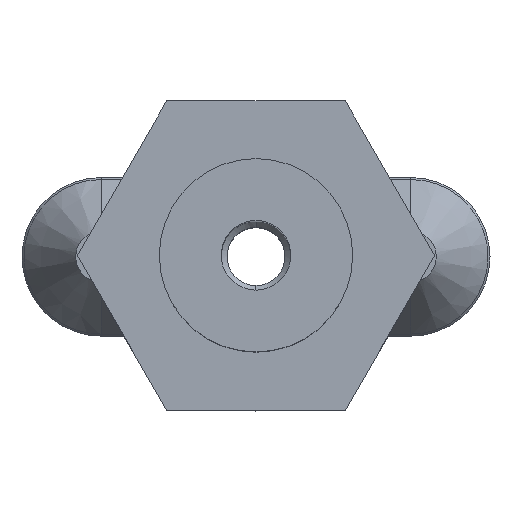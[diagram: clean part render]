
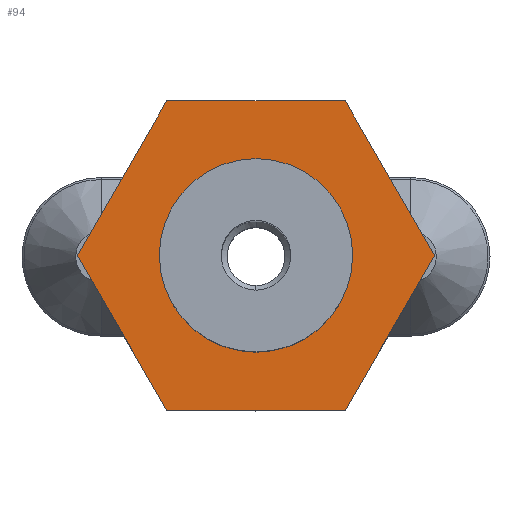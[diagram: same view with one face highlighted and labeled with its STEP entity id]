
A CAD part, top view. The second image highlights one B-rep face of the part: STEP entity #94.
In plain terms, the highlighted planar face has unit normal (0, 0, 1).
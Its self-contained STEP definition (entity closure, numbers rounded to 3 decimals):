
#94=ADVANCED_FACE('NONE',(#216,#217),#218,.T.);
#216=FACE_OUTER_BOUND('',#364,.T.);
#217=FACE_BOUND('',#365,.T.);
#218=PLANE('',#366);
#364=EDGE_LOOP('',(#558,#559,#560,#561,#562,#563));
#365=EDGE_LOOP('',(#564,#565));
#366=AXIS2_PLACEMENT_3D('',#566,#567,#568);
#558=ORIENTED_EDGE('',*,*,#905,.T.);
#559=ORIENTED_EDGE('',*,*,#906,.T.);
#560=ORIENTED_EDGE('',*,*,#907,.T.);
#561=ORIENTED_EDGE('',*,*,#908,.T.);
#562=ORIENTED_EDGE('',*,*,#909,.T.);
#563=ORIENTED_EDGE('',*,*,#910,.T.);
#564=ORIENTED_EDGE('',*,*,#894,.F.);
#565=ORIENTED_EDGE('',*,*,#903,.F.);
#566=CARTESIAN_POINT('',(0.,0.,0.0));
#567=DIRECTION('',(0.0,0.0,1.0));
#568=DIRECTION('',(1.0,-0.0,0.0));
#894=EDGE_CURVE('NONE',#1064,#1065,#1066,.T.);
#903=EDGE_CURVE('NONE',#1065,#1064,#1077,.T.);
#905=EDGE_CURVE('NONE',#1079,#1080,#1081,.T.);
#906=EDGE_CURVE('NONE',#1080,#1082,#1083,.T.);
#907=EDGE_CURVE('NONE',#1082,#1084,#1085,.T.);
#908=EDGE_CURVE('NONE',#1084,#1086,#1087,.T.);
#909=EDGE_CURVE('NONE',#1086,#1088,#1089,.T.);
#910=EDGE_CURVE('NONE',#1088,#1079,#1090,.T.);
#1064=VERTEX_POINT('NONE',#1296);
#1065=VERTEX_POINT('NONE',#1297);
#1066=CIRCLE('',#1298,2.5);
#1077=CIRCLE('',#1311,2.5);
#1079=VERTEX_POINT('NONE',#1313);
#1080=VERTEX_POINT('NONE',#1314);
#1081=LINE('',#1315,#1316);
#1082=VERTEX_POINT('NONE',#1317);
#1083=LINE('',#1318,#1319);
#1084=VERTEX_POINT('NONE',#1320);
#1085=LINE('',#1321,#1322);
#1086=VERTEX_POINT('NONE',#1323);
#1087=LINE('',#1324,#1325);
#1088=VERTEX_POINT('NONE',#1326);
#1089=LINE('',#1327,#1328);
#1090=LINE('',#1329,#1330);
#1296=CARTESIAN_POINT('',(2.5,0.0,0.0));
#1297=CARTESIAN_POINT('',(-2.5,0.,0.0));
#1298=AXIS2_PLACEMENT_3D('',#1667,#1668,#1669);
#1311=AXIS2_PLACEMENT_3D('',#1681,#1682,#1683);
#1313=CARTESIAN_POINT('',(4.619,0.,0.0));
#1314=CARTESIAN_POINT('',(2.309,4.,0.0));
#1315=CARTESIAN_POINT('',(4.619,0.,0.0));
#1316=VECTOR('',#1684,1000.0);
#1317=CARTESIAN_POINT('',(-2.309,4.,0.0));
#1318=CARTESIAN_POINT('',(2.309,4.,0.0));
#1319=VECTOR('',#1685,1000.0);
#1320=CARTESIAN_POINT('',(-4.619,0.,0.0));
#1321=CARTESIAN_POINT('',(-2.309,4.,0.0));
#1322=VECTOR('',#1686,1000.0);
#1323=CARTESIAN_POINT('',(-2.309,-4.,0.0));
#1324=CARTESIAN_POINT('',(-4.619,0.,0.0));
#1325=VECTOR('',#1687,1000.0);
#1326=CARTESIAN_POINT('',(2.309,-4.,0.0));
#1327=CARTESIAN_POINT('',(-2.309,-4.,0.0));
#1328=VECTOR('',#1688,1000.0);
#1329=CARTESIAN_POINT('',(2.309,-4.,0.0));
#1330=VECTOR('',#1689,1000.0);
#1667=CARTESIAN_POINT('',(0.0,0.0,0.0));
#1668=DIRECTION('',(0.0,0.0,1.0));
#1669=DIRECTION('',(1.0,0.0,0.0));
#1681=CARTESIAN_POINT('',(0.0,0.0,0.0));
#1682=DIRECTION('',(0.0,0.0,1.0));
#1683=DIRECTION('',(1.0,0.0,0.0));
#1684=DIRECTION('',(-0.5,0.866,0.0));
#1685=DIRECTION('',(-1.0,0.0,0.0));
#1686=DIRECTION('',(-0.5,-0.866,0.0));
#1687=DIRECTION('',(0.5,-0.866,0.0));
#1688=DIRECTION('',(1.0,0.,0.0));
#1689=DIRECTION('',(0.5,0.866,0.0));
